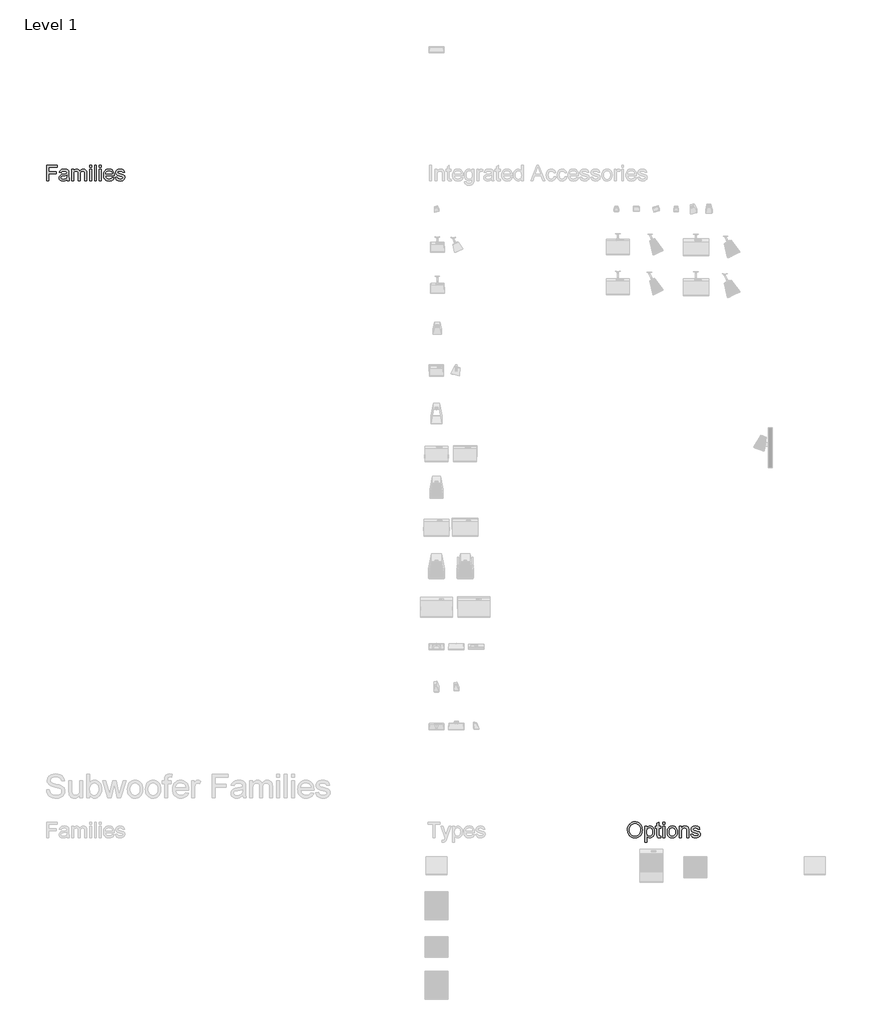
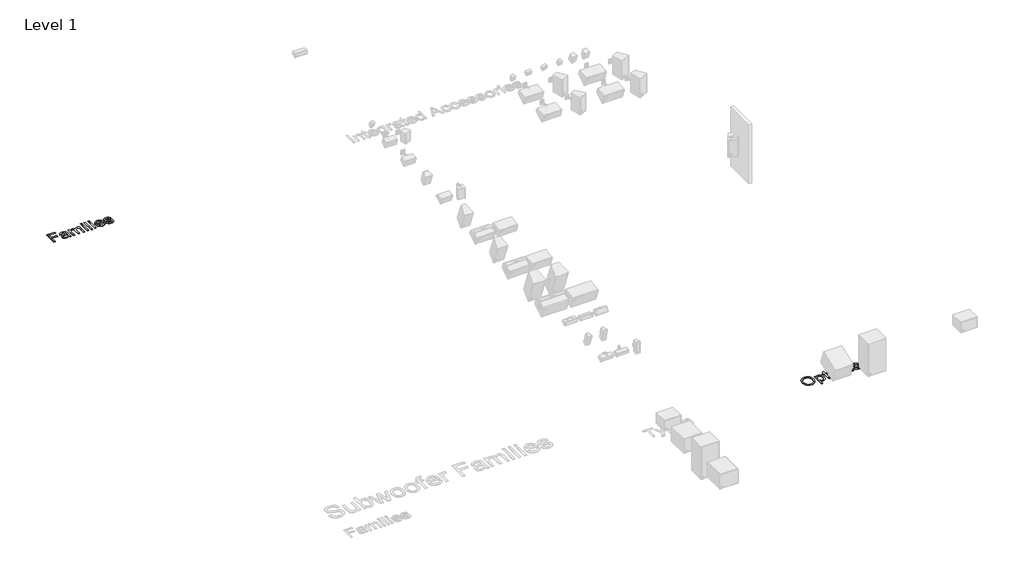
# One storey, part 7 of 12: 2 proxies.
"""IFC4 building model written with IfcOpenShell, lengths in millimetres."""

from ifc_helpers import new_model, si_unit, origin, origin_with_axes, place, context, project, spatial, polyline, outline, extrude, element, save

model = new_model("IFC4")

# Units and contexts
model_context = context("Model", 3, world=origin())
ifc_project = project(units=[si_unit("LENGTHUNIT", "METRE", prefix="MILLI")], contexts=[model_context])

# Site, building, storey
site = spatial("IfcSite", under=ifc_project)
building = spatial("IfcBuilding", under=site)
storey = spatial("IfcBuildingStorey", under=building, Name="Level 1", Elevation=0.0)

# Proxies
placement = place(None, origin())
element("IfcBuildingElementProxy", 1, Name="400mm Arial", ObjectType="400mm Arial", at=placement, inside=storey, context=model_context, shape_type="SweptSolid", body=[
    extrude(outline(polyline([(-21056.720891, 7351.3054836), (-21056.720891, 7743.0630593), (-20793.5087698, 7743.0630593), (-20793.5087698, 7694.0933624), (-21007.7511941, 7694.0933624), (-21007.7511941, 7577.7903321), (-20824.1148304, 7577.7903321), (-20824.1148304, 7528.8206351), (-21007.7511941, 7528.8206351), (-21007.7511941, 7351.3054836), (-21056.720891, 7351.3054836)])), origin_with_axes(), (0.0, 0.0, 1.0), 5.0),
    extrude(outline(polyline([(-20548.660285, 7388.0327563), (-20572.0571836, 7367.97144), (-20596.1475009, 7354.8443093), (-20621.4811893, 7347.5992809), (-20648.6082016, 7345.1842715), (-20670.4120309, 7346.6368638), (-20689.5318522, 7350.9946408), (-20705.9676654, 7358.2576024), (-20719.7194706, 7368.4257487), (-20730.5780466, 7380.8534831), (-20738.3341723, 7394.895209), (-20742.9878477, 7410.5509263), (-20744.5390729, 7427.8206351), (-20742.1957963, 7448.1210612), (-20735.1659668, 7466.5564305), (-20724.3223352, 7482.3376805), (-20710.5376524, 7494.6757487), (-20676.2493001, 7510.7439305), (-20633.879035, 7518.1085139), (-20583.8094327, 7525.855673), (-20548.9472168, 7534.9418472), (-20548.660285, 7545.8452563), (-20552.0317338, 7567.6998965), (-20562.1460804, 7581.9986654), (-20584.7658721, 7592.6151427), (-20616.2805501, 7596.1539684), (-20645.4519516, 7593.7987364), (-20665.8241107, 7586.7330404), (-20679.7163929, 7573.6656872), (-20689.4481638, 7553.3054836), (-20738.4178607, 7559.4266957), (-20729.9175056, 7586.2069987), (-20717.2327282, 7607.2486654), (-20699.1799346, 7623.3407582), (-20674.5755312, 7635.2723396), (-20644.4835568, 7642.660834), (-20609.9680501, 7645.1236654), (-20576.8632916, 7642.9477658), (-20550.6209857, 7636.4200669), (-20530.8346458, 7626.6046076), (-20517.097785, 7614.5654268), (-20507.9876997, 7599.6808387), (-20502.0816865, 7581.3291578), (-20499.690588, 7538.480673), (-20499.690588, 7477.5554836), (-20497.2038456, 7392.4801995), (-20487.4481638, 7351.3054836), (-20536.4178607, 7351.3054836), (-20544.2606638, 7368.3301048), (-20548.660285, 7388.0327563)]), holes=[polyline([(-20548.660285, 7485.9721502), (-20581.5618001, 7477.8185044), (-20627.6621789, 7470.9560518), (-20669.7933342, 7463.0176048), (-20680.7565208, 7457.5898112), (-20688.8743001, 7450.105673), (-20693.8956069, 7441.1390536), (-20695.5693759, 7431.2638169), (-20691.9229507, 7416.7020271), (-20680.9836751, 7404.7704457), (-20662.990659, 7396.8080877), (-20638.1830122, 7394.1539684), (-20611.8809289, 7397.0830641), (-20588.6394516, 7405.870351), (-20569.7975956, 7418.8181493), (-20556.6943759, 7434.228779), (-20550.8840066, 7450.105673), (-20548.9472168, 7472.103779), (-20548.660285, 7485.9721502)])]), origin_with_axes(), (0.0, 0.0, 1.0), 5.0),
    extrude(outline(polyline([(-20432.3572547, 7351.3054836), (-20432.3572547, 7639.0024533), (-20383.3875577, 7639.0024533), (-20383.3875577, 7591.6587033), (-20368.658391, 7613.405744), (-20349.720891, 7630.4423207), (-20327.2206543, 7641.4533292), (-20301.8032774, 7645.1236654), (-20274.5686657, 7641.3815963), (-20252.7379365, 7630.1553889), (-20236.4306448, 7612.1862838), (-20225.7663456, 7588.2155215), (-20207.9167954, 7613.1128344), (-20187.5565918, 7630.8966294), (-20164.6857348, 7641.5669064), (-20139.3042244, 7645.1236654), (-20119.7002057, 7643.6441732), (-20102.4932632, 7639.2056966), (-20087.683397, 7631.8082357), (-20075.2706069, 7621.4517904), (-20065.4581365, 7608.0168058), (-20058.4492291, 7591.3837269), (-20054.2438846, 7571.5525539), (-20052.8421032, 7548.5232866), (-20052.8421032, 7351.3054836), (-20101.8118001, 7351.3054836), (-20101.8118001, 7527.4816199), (-20106.3548872, 7568.369404), (-20112.7391202, 7579.6434334), (-20122.8056448, 7588.5024533), (-20135.7534431, 7594.2410896), (-20150.7814971, 7596.1539684), (-20177.3107348, 7591.2522165), (-20198.9382206, 7576.5469608), (-20207.3279874, 7565.2669537), (-20213.320678, 7551.03394), (-20218.1148304, 7513.7088927), (-20218.1148304, 7351.3054836), (-20267.0845274, 7351.3054836), (-20267.0845274, 7532.9333245), (-20269.9179791, 7560.6222449), (-20278.4183342, 7580.3727184), (-20293.3746552, 7592.2086559), (-20315.5760047, 7596.1539684), (-20334.4417717, 7593.5237601), (-20351.8250577, 7585.6331351), (-20366.1716486, 7572.6733813), (-20375.9273304, 7554.8357866), (-20381.5225009, 7530.0879173), (-20383.3875577, 7496.3973396), (-20383.3875577, 7351.3054836), (-20432.3572547, 7351.3054836)])), origin_with_axes(), (0.0, 0.0, 1.0), 5.0),
    extrude(outline(polyline([(-19979.3875577, 7351.3054836), (-19979.3875577, 7639.0024533), (-19930.4178607, 7639.0024533), (-19930.4178607, 7351.3054836), (-19979.3875577, 7351.3054836)])), origin_with_axes(), (0.0, 0.0, 1.0), 5.0),
    extrude(outline(polyline([(-19979.3875577, 7694.0933624), (-19979.3875577, 7743.0630593), (-19930.4178607, 7743.0630593), (-19930.4178607, 7694.0933624), (-19979.3875577, 7694.0933624)])), origin_with_axes(), (0.0, 0.0, 1.0), 5.0),
    extrude(outline(polyline([(-19856.9633153, 7351.3054836), (-19856.9633153, 7743.0630593), (-19807.9936183, 7743.0630593), (-19807.9936183, 7351.3054836), (-19856.9633153, 7351.3054836)])), origin_with_axes(), (0.0, 0.0, 1.0), 5.0),
    extrude(outline(polyline([(-19734.5390729, 7351.3054836), (-19734.5390729, 7639.0024533), (-19685.5693759, 7639.0024533), (-19685.5693759, 7351.3054836), (-19734.5390729, 7351.3054836)])), origin_with_axes(), (0.0, 0.0, 1.0), 5.0),
    extrude(outline(polyline([(-19734.5390729, 7694.0933624), (-19734.5390729, 7743.0630593), (-19685.5693759, 7743.0630593), (-19685.5693759, 7694.0933624), (-19734.5390729, 7694.0933624)])), origin_with_axes(), (0.0, 0.0, 1.0), 5.0),
    extrude(outline(polyline([(-19410.6886941, 7437.0024533), (-19362.6754365, 7430.8812411), (-19370.0370309, 7411.6508316), (-19379.975034, 7394.7039211), (-19392.4894457, 7380.0405096), (-19407.580266, 7367.6605972), (-19425.0920736, 7357.8272047), (-19444.8694469, 7350.8033529), (-19491.220891, 7345.1842715), (-19521.605775, 7347.6082475), (-19548.6789876, 7354.8801758), (-19572.4405288, 7367.0000563), (-19592.8903986, 7383.9678889), (-19609.3351784, 7405.3114317), (-19621.0814497, 7430.5584429), (-19628.1292125, 7459.7089223), (-19630.4784668, 7492.7628699), (-19628.1053015, 7526.937645), (-19620.9858058, 7557.0595082), (-19609.1199796, 7583.1284594), (-19592.5078229, 7605.1444987), (-19572.1117528, 7622.6353841), (-19548.8941865, 7635.1288737), (-19522.855124, 7642.6249675), (-19493.9945653, 7645.1236654), (-19466.0635461, 7642.6309452), (-19440.8045795, 7635.1527847), (-19418.2176654, 7622.6891839), (-19398.3028039, 7605.2401427), (-19382.0463231, 7583.2719253), (-19370.4345511, 7557.2507961), (-19363.4674879, 7527.1767549), (-19361.1451335, 7493.0498018), (-19361.4320653, 7479.8509381), (-19581.5087698, 7479.8509381), (-19578.6723292, 7460.3096858), (-19573.0323257, 7443.1953983), (-19564.5887592, 7428.5080759), (-19553.3416297, 7416.2477184), (-19524.9234242, 7399.6774059), (-19490.2644516, 7394.1539684), (-19464.2014782, 7396.7124438), (-19442.2511941, 7404.3878699), (-19424.4135994, 7417.6584665), (-19410.6886941, 7437.0024533)]), holes=[polyline([(-19581.5087698, 7528.8206351), (-19410.1148304, 7528.8206351), (-19416.7381732, 7554.6923207), (-19429.721838, 7573.199423), (-19443.076123, 7583.2420366), (-19458.2715539, 7590.4153321), (-19494.1858532, 7596.1539684), (-19527.1949677, 7591.5750148), (-19554.4893569, 7577.838154), (-19573.4627234, 7556.4258671), (-19581.5087698, 7528.8206351)])]), origin_with_axes(), (0.0, 0.0, 1.0), 5.0),
    extrude(outline(polyline([(-19330.5390729, 7437.0024533), (-19281.5693759, 7443.1236654), (-19273.8461278, 7422.1776427), (-19258.9017622, 7406.7789684), (-19236.6406354, 7397.3102184), (-19206.9671032, 7394.1539684), (-19177.6522357, 7397.0471976), (-19157.0409668, 7405.7268851), (-19144.8463645, 7418.3040631), (-19140.7814971, 7432.8897639), (-19144.8702755, 7445.371298), (-19157.1366107, 7454.8878699), (-19207.5409668, 7468.8518851), (-19281.2824441, 7492.8106919), (-19299.9449677, 7504.8498728), (-19313.4666297, 7520.7865442), (-19321.680053, 7539.6044893), (-19324.4178607, 7560.2874911), (-19322.2180501, 7579.2608576), (-19315.6186183, 7596.775654), (-19305.2173399, 7612.1384618), (-19291.6119895, 7624.6558624), (-19260.4798872, 7639.1459192), (-19218.3487319, 7645.1236654), (-19186.4753891, 7642.7206114), (-19158.7625577, 7635.5114495), (-19136.4775198, 7624.2015536), (-19120.8875577, 7609.496298), (-19110.5580122, 7590.3077326), (-19104.0542244, 7565.5479078), (-19153.0239213, 7559.4266957), (-19159.2049109, 7574.8373254), (-19171.4353797, 7586.4461086), (-19189.8348825, 7593.7270035), (-19214.5229744, 7596.1539684), (-19242.6422925, 7593.8346029), (-19261.3885047, 7586.8765063), (-19271.933249, 7576.8338927), (-19275.4481638, 7565.260976), (-19269.6138835, 7551.010029), (-19251.345891, 7540.2022639), (-19209.1669138, 7529.7770745), (-19137.2904933, 7506.7268851), (-19118.3051713, 7495.7039211), (-19103.9107585, 7480.6160896), (-19094.8365397, 7461.4155688), (-19091.8118001, 7438.0545366), (-19095.3625814, 7413.9044419), (-19106.0149251, 7391.1890063), (-19123.3623446, 7371.6895982), (-19146.9983532, 7357.1875858), (-19175.5480691, 7348.1851), (-19207.6366107, 7345.1842715), (-19233.9924938, 7346.630886), (-19257.0127944, 7350.9707298), (-19276.6975127, 7358.2038027), (-19293.0466486, 7368.3301048), (-19306.4009336, 7381.3018141), (-19317.1010994, 7397.0711086), (-19325.1471458, 7415.6379883), (-19330.5390729, 7437.0024533)])), origin_with_axes(), (0.0, 0.0, 1.0), 5.0),
])
element("IfcBuildingElementProxy", 2, Name="400mm Arial", ObjectType="400mm Arial", at=placement, inside=storey, context=model_context, shape_type="SweptSolid", body=[
    extrude(outline(polyline([(-6462.261333, -8957.9805013), (-6458.9974836, -8912.0295661), (-6449.2059353, -8871.3510032), (-6432.8866881, -8835.9448124), (-6410.0397421, -8805.8109937), (-6382.0340011, -8781.7505652), (-6350.238369, -8764.5645448), (-6314.6528458, -8754.2529326), (-6275.2774315, -8750.8157285), (-6248.9215484, -8752.42972), (-6223.892725, -8757.2716945), (-6200.1909613, -8765.3416518), (-6177.8162572, -8776.6395922), (-6157.3962762, -8790.8247839), (-6139.5586815, -8807.5564956), (-6124.3034732, -8826.8347271), (-6111.6306512, -8848.6594785), (-6101.671726, -8872.5345969), (-6094.558208, -8897.9639293), (-6088.8673936, -8953.4852361), (-6094.8570953, -9009.7477835), (-6102.3442224, -9035.5298029), (-6112.8262004, -9059.7456528), (-6126.0549528, -9081.7557143), (-6141.7824031, -9100.9203687), (-6160.0085513, -9117.2396159), (-6180.7333974, -9130.7134558), (-6226.4153339, -9148.7901604), (-6275.5643633, -9154.8157285), (-6302.3805328, -9153.1509262), (-6327.7381322, -9148.1565193), (-6351.6371616, -9139.8325077), (-6374.0776209, -9128.1788914), (-6394.473691, -9113.6469904), (-6412.2395527, -9096.6881244), (-6427.3752061, -9077.3022934), (-6439.8806512, -9055.4894975), (-6456.6661625, -9008.08597), (-6462.261333, -8957.9805013)]), holes=[polyline([(-6413.291636, -8958.458721), (-6410.843749, -8990.9238607), (-6403.5000877, -9019.7425751), (-6391.2606524, -9044.9148644), (-6374.1254429, -9066.4407285), (-6353.2959862, -9083.6805486), (-6329.9738093, -9095.9947058), (-6304.1589123, -9103.3832001), (-6275.8512951, -9105.8460316), (-6247.0594805, -9103.3592892), (-6220.9397184, -9095.8990619), (-6197.4920089, -9083.4653498), (-6176.7163519, -9066.0581528), (-6159.7066751, -9044.07798), (-6147.5569059, -9017.9253403), (-6140.2670444, -8987.6002338), (-6137.8370906, -8953.1026604), (-6141.9976019, -8909.7520448), (-6154.479136, -8872.2835316), (-6174.9588946, -8841.6416045), (-6203.1140792, -8818.7707475), (-6237.0796332, -8804.531756), (-6274.9904997, -8799.7854255), (-6302.3147776, -8802.0719134), (-6327.6663993, -8808.9313772), (-6351.0453647, -8820.3638169), (-6372.4516739, -8836.3692323), (-6390.3191573, -8857.7187529), (-6403.0816455, -8885.1835079), (-6410.7391384, -8918.7634973), (-6413.291636, -8958.458721)])]), origin_with_axes(), (0.0, 0.0, 1.0), 5.0),
    extrude(outline(polyline([(-6027.6552724, -9258.8763346), (-6027.6552724, -8860.9975467), (-5978.6855754, -8860.9975467), (-5978.6855754, -8909.0108043), (-5962.7130375, -8885.3269738), (-5944.8276209, -8868.409952), (-5923.9772421, -8858.259739), (-5899.1098179, -8854.8763346), (-5865.9931038, -8859.6107096), (-5837.0369012, -8873.8138346), (-5813.4606701, -8896.6249142), (-5796.4838709, -8927.1831528), (-5786.2260584, -8963.2648289), (-5782.8067875, -9002.646221), (-5786.6684116, -9044.5263109), (-5798.2532838, -9081.9828687), (-5817.1907838, -9113.114971), (-5843.1102913, -9136.0216945), (-5873.2979097, -9150.11722), (-5905.0397421, -9154.8157285), (-5927.5519343, -9151.671434), (-5947.6491171, -9142.2385505), (-5964.8530707, -9127.999559), (-5978.6855754, -9110.4369407), (-5978.6855754, -9258.8763346), (-6027.6552724, -9258.8763346)]), holes=[polyline([(-5978.6855754, -9007.1414861), (-5973.3892923, -9051.0420543), (-5966.7689384, -9068.0427645), (-5957.5004429, -9081.7437589), (-5934.0557222, -9099.8204634), (-5920.6386708, -9104.3396395), (-5906.0918254, -9105.8460316), (-5891.3357589, -9104.2858398), (-5877.6736199, -9099.6052645), (-5853.6311247, -9080.8829634), (-5844.0697196, -9066.6858161), (-5837.2401446, -9049.0574426), (-5831.7764845, -9003.5070164), (-5837.1086341, -8959.8455581), (-5843.7738212, -8942.7133375), (-5853.105083, -8928.7134558), (-5876.5139372, -8910.0628876), (-5889.778556, -8905.4002456), (-5904.0833027, -8903.8460316), (-5918.3432163, -8905.4988784), (-5931.7602677, -8910.4574189), (-5956.0657838, -8930.2915808), (-5965.9619426, -8945.0117809), (-5973.0306275, -8962.7268318), (-5977.2718384, -8983.4367335), (-5978.6855754, -9007.1414861)])]), origin_with_axes(), (0.0, 0.0, 1.0), 5.0),
    extrude(outline(polyline([(-5623.6552724, -9107.8545543), (-5617.5340603, -9150.1291755), (-5654.1656891, -9154.8157285), (-5677.6701872, -9152.7832948), (-5695.1969391, -9146.6859937), (-5707.5828292, -9137.2889767), (-5715.6647421, -9125.3573952), (-5720.1121853, -9104.8656812), (-5721.5946663, -9069.7882664), (-5721.5946663, -8909.9672437), (-5758.3219391, -8909.9672437), (-5758.3219391, -8860.9975467), (-5721.5946663, -8860.9975467), (-5721.5946663, -8791.081827), (-5672.6249694, -8762.2930013), (-5672.6249694, -8860.9975467), (-5623.6552724, -8860.9975467), (-5623.6552724, -8909.9672437), (-5672.6249694, -8909.9672437), (-5672.6249694, -9068.3536073), (-5670.042583, -9093.6036073), (-5661.6737383, -9102.5463157), (-5644.9838709, -9105.8460316), (-5623.6552724, -9107.8545543)])), origin_with_axes(), (0.0, 0.0, 1.0), 5.0),
    extrude(outline(polyline([(-5574.6855754, -9148.6945164), (-5574.6855754, -8860.9975467), (-5525.7158785, -8860.9975467), (-5525.7158785, -9148.6945164), (-5574.6855754, -9148.6945164)])), origin_with_axes(), (0.0, 0.0, 1.0), 5.0),
    extrude(outline(polyline([(-5574.6855754, -8805.9066376), (-5574.6855754, -8756.9369407), (-5525.7158785, -8756.9369407), (-5525.7158785, -8805.9066376), (-5574.6855754, -8805.9066376)])), origin_with_axes(), (0.0, 0.0, 1.0), 5.0),
    extrude(outline(polyline([(-5464.5037572, -9004.8460316), (-5461.8556157, -8967.5867394), (-5453.911191, -8935.4802645), (-5440.6704831, -8908.5266069), (-5422.1334921, -8886.7257664), (-5403.4709684, -8872.79164), (-5382.871655, -8862.8386926), (-5360.3355518, -8856.8669241), (-5335.8626588, -8854.8763346), (-5308.8462348, -8857.3003107), (-5284.4181749, -8864.572239), (-5262.5784791, -8876.6921194), (-5243.3271474, -8893.659952), (-5227.6146415, -8914.9018732), (-5216.391423, -8939.8440193), (-5209.6574919, -8968.4863902), (-5207.4128482, -9000.8289861), (-5211.3820716, -9050.3008138), (-5223.2897421, -9087.9606149), (-5242.7891502, -9116.1636215), (-5269.5335868, -9137.2650657), (-5301.2993302, -9150.4280628), (-5335.8626588, -9154.8157285), (-5363.273614, -9152.4007191), (-5387.9288283, -9145.1556907), (-5409.8283015, -9133.0806433), (-5428.9720338, -9116.175577), (-5444.5171628, -9094.7274236), (-5455.6208264, -9069.0231149), (-5462.2830245, -9039.0626509), (-5464.5037572, -9004.8460316)]), holes=[polyline([(-5415.5340603, -9004.7503876), (-5414.1173344, -9028.5029622), (-5409.8671569, -9049.0693981), (-5402.7835276, -9066.4496952), (-5392.8664466, -9080.6438535), (-5380.8033548, -9091.6698064), (-5367.2816929, -9099.5454871), (-5352.3014608, -9104.2708955), (-5335.8626588, -9105.8460316), (-5319.5075451, -9104.2619288), (-5304.5870906, -9099.5096206), (-5291.1012951, -9091.5891069), (-5279.0501588, -9080.5003876), (-5269.1330778, -9066.1657522), (-5262.0494485, -9048.5074899), (-5257.799271, -9027.5256007), (-5256.3825451, -9003.2200846), (-5257.8082376, -8980.2207061), (-5262.085315, -8960.1922674), (-5269.2137774, -8943.1347686), (-5279.1936247, -8929.0482096), (-5291.2895941, -8918.0222567), (-5304.766423, -8910.1465761), (-5319.6241112, -8905.4211677), (-5335.8626588, -8903.8460316), (-5352.3014608, -8905.41519), (-5367.2816929, -8910.1226651), (-5380.8033548, -8917.968457), (-5392.8664466, -8928.9525657), (-5402.7835276, -8943.1048798), (-5409.8671569, -8960.4552882), (-5414.1173344, -8981.0037908), (-5415.5340603, -9004.7503876)])]), origin_with_axes(), (0.0, 0.0, 1.0), 5.0),
    extrude(outline(polyline([(-5152.3219391, -9148.6945164), (-5152.3219391, -8860.9975467), (-5103.3522421, -8860.9975467), (-5103.3522421, -8901.1680013), (-5086.3395764, -8880.9153971), (-5065.9076398, -8866.4492513), (-5042.0564324, -8857.7695638), (-5014.7859542, -8854.8763346), (-4990.647815, -8857.2076556), (-4968.5421095, -8864.2016187), (-4950.1067402, -8874.9854729), (-4936.9796095, -8888.6864672), (-4928.0727677, -8905.2687352), (-4922.2982648, -8924.6964104), (-4919.7158785, -8972.0401604), (-4919.7158785, -9148.6945164), (-4968.6855754, -9148.6945164), (-4968.6855754, -8978.6395922), (-4970.0963235, -8953.3178592), (-4974.3285679, -8935.3128876), (-4982.1355044, -8922.4129113), (-4994.2703292, -8912.4061642), (-5009.8244249, -8905.9860647), (-5027.8891739, -8903.8460316), (-5056.5704002, -8908.6521395), (-5081.0193822, -8923.0704634), (-5090.7900084, -8934.8406457), (-5097.7690271, -8950.9267607), (-5101.9564384, -8971.3288086), (-5103.3522421, -8996.0467892), (-5103.3522421, -9148.6945164), (-5152.3219391, -9148.6945164)])), origin_with_axes(), (0.0, 0.0, 1.0), 5.0),
    extrude(outline(polyline([(-4870.7461815, -9062.9975467), (-4821.7764845, -9056.8763346), (-4814.0532364, -9077.8223573), (-4799.1088709, -9093.2210316), (-4776.847744, -9102.6897816), (-4747.1742118, -9105.8460316), (-4717.8593444, -9102.9528024), (-4697.2480754, -9094.2731149), (-4685.0534732, -9081.6959369), (-4680.9886057, -9067.1102361), (-4685.0773841, -9054.628702), (-4697.3437194, -9045.1121301), (-4747.7480754, -9031.1481149), (-4821.4895527, -9007.1893081), (-4840.1520764, -8995.1501272), (-4853.6737383, -8979.2134558), (-4861.8871616, -8960.3955107), (-4864.6249694, -8939.7125089), (-4862.4251588, -8920.7391424), (-4855.8257269, -8903.224346), (-4845.4244485, -8887.8615382), (-4831.8190982, -8875.3441376), (-4800.6869959, -8860.8540808), (-4758.5558406, -8854.8763346), (-4726.6824978, -8857.2793886), (-4698.9696663, -8864.4885505), (-4676.6846285, -8875.7984464), (-4661.0946663, -8890.503702), (-4650.7651209, -8909.6922674), (-4644.261333, -8934.4520922), (-4693.23103, -8940.5733043), (-4699.4120196, -8925.1626746), (-4711.6424883, -8913.5538914), (-4730.0419911, -8906.2729965), (-4754.730083, -8903.8460316), (-4782.8494012, -8906.1653971), (-4801.5956133, -8913.1234937), (-4812.1403576, -8923.1661073), (-4815.6552724, -8934.739024), (-4809.8209921, -8948.989971), (-4791.5529997, -8959.7977361), (-4749.3740224, -8970.2229255), (-4677.4976019, -8993.2731149), (-4658.51228, -9004.2960789), (-4644.1178671, -9019.3839104), (-4635.0436483, -9038.5844312), (-4632.0189088, -9061.9454634), (-4635.56969, -9086.0955581), (-4646.2220338, -9108.8109937), (-4663.5694533, -9128.3104018), (-4687.2054618, -9142.8124142), (-4715.7551777, -9151.8149), (-4747.8437194, -9154.8157285), (-4774.1996024, -9153.369114), (-4797.2199031, -9149.0292702), (-4816.9046214, -9141.7961973), (-4833.2537572, -9131.6698952), (-4846.6080423, -9118.6981859), (-4857.308208, -9102.9288914), (-4865.3542544, -9084.3620117), (-4870.7461815, -9062.9975467)])), origin_with_axes(), (0.0, 0.0, 1.0), 5.0),
])

save(model, "model.ifc")
